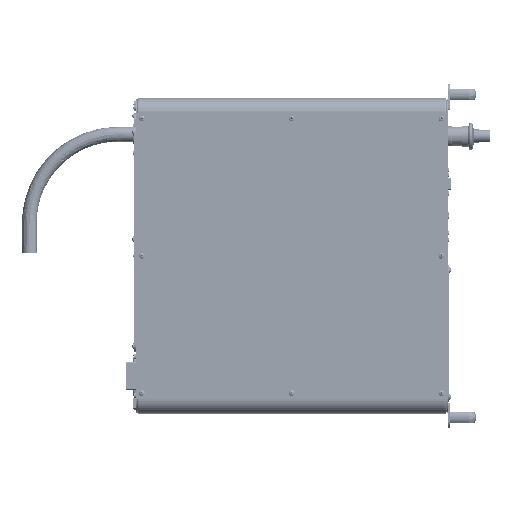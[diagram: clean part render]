
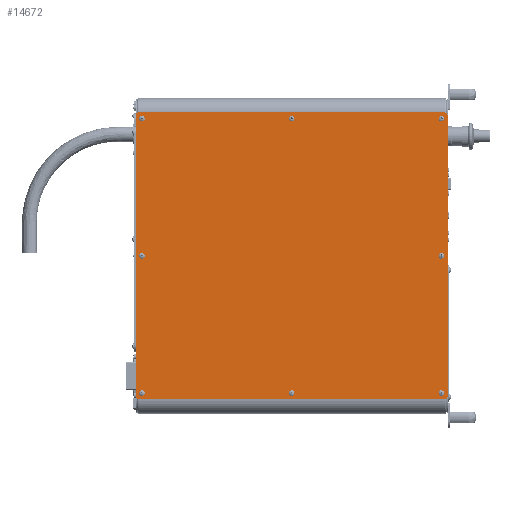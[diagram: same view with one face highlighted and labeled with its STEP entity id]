
A CAD part, top view. The second image highlights one B-rep face of the part: STEP entity #14672.
In plain terms, the highlighted planar face has unit normal (0, 0, 1).
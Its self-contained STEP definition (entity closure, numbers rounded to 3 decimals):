
#6188=FACE_BOUND('',#39897,.T.);
#6189=FACE_BOUND('',#39898,.T.);
#6190=FACE_BOUND('',#39899,.T.);
#6191=FACE_BOUND('',#39900,.T.);
#6192=FACE_BOUND('',#39901,.T.);
#6193=FACE_BOUND('',#39902,.T.);
#6194=FACE_BOUND('',#39903,.T.);
#6195=FACE_BOUND('',#39904,.T.);
#6196=FACE_BOUND('',#39905,.T.);
#8817=CIRCLE('',#170979,4.);
#8818=CIRCLE('',#170980,4.);
#8819=CIRCLE('',#170981,4.);
#8820=CIRCLE('',#170982,4.);
#8821=CIRCLE('',#170983,4.);
#8822=CIRCLE('',#170984,4.);
#8823=CIRCLE('',#170985,4.);
#8824=CIRCLE('',#170986,4.);
#8825=CIRCLE('',#170987,5.);
#8826=CIRCLE('',#170988,5.);
#8827=CIRCLE('',#170989,5.);
#8828=CIRCLE('',#170990,5.);
#14672=ADVANCED_FACE('',(#6188,#6189,#6190,#6191,#6192,#6193,#6194,#6195,
#6196),#23928,.F.);
#23928=PLANE('',#170991);
#39897=EDGE_LOOP('',(#58368));
#39898=EDGE_LOOP('',(#58369));
#39899=EDGE_LOOP('',(#58370));
#39900=EDGE_LOOP('',(#58371));
#39901=EDGE_LOOP('',(#58372));
#39902=EDGE_LOOP('',(#58373));
#39903=EDGE_LOOP('',(#58374));
#39904=EDGE_LOOP('',(#58375));
#39905=EDGE_LOOP('',(#58376,#58377,#58378,#58379,#58380,#58381,#58382,#58383));
#58368=ORIENTED_EDGE('',*,*,#117037,.T.);
#58369=ORIENTED_EDGE('',*,*,#117038,.T.);
#58370=ORIENTED_EDGE('',*,*,#117039,.T.);
#58371=ORIENTED_EDGE('',*,*,#117040,.T.);
#58372=ORIENTED_EDGE('',*,*,#117041,.T.);
#58373=ORIENTED_EDGE('',*,*,#117042,.T.);
#58374=ORIENTED_EDGE('',*,*,#117043,.T.);
#58375=ORIENTED_EDGE('',*,*,#117044,.T.);
#58376=ORIENTED_EDGE('',*,*,#116972,.F.);
#58377=ORIENTED_EDGE('',*,*,#117045,.T.);
#58378=ORIENTED_EDGE('',*,*,#112294,.F.);
#58379=ORIENTED_EDGE('',*,*,#117046,.T.);
#58380=ORIENTED_EDGE('',*,*,#117035,.F.);
#58381=ORIENTED_EDGE('',*,*,#117047,.T.);
#58382=ORIENTED_EDGE('',*,*,#116997,.F.);
#58383=ORIENTED_EDGE('',*,*,#117048,.T.);
#96969=VERTEX_POINT('',#229533);
#96970=VERTEX_POINT('',#229535);
#100223=VERTEX_POINT('',#241858);
#100224=VERTEX_POINT('',#241860);
#100236=VERTEX_POINT('',#241887);
#100247=VERTEX_POINT('',#241908);
#100284=VERTEX_POINT('',#241984);
#100285=VERTEX_POINT('',#241986);
#100286=VERTEX_POINT('',#241990);
#100287=VERTEX_POINT('',#241992);
#100288=VERTEX_POINT('',#241994);
#100289=VERTEX_POINT('',#241996);
#100290=VERTEX_POINT('',#241998);
#100291=VERTEX_POINT('',#242000);
#100292=VERTEX_POINT('',#242002);
#100293=VERTEX_POINT('',#242004);
#112294=EDGE_CURVE('',#96969,#96970,#135961,.T.);
#116972=EDGE_CURVE('',#100223,#100224,#139784,.T.);
#116997=EDGE_CURVE('',#100247,#100236,#139798,.T.);
#117035=EDGE_CURVE('',#100284,#100285,#139822,.T.);
#117037=EDGE_CURVE('',#100286,#100286,#8817,.T.);
#117038=EDGE_CURVE('',#100287,#100287,#8818,.T.);
#117039=EDGE_CURVE('',#100288,#100288,#8819,.T.);
#117040=EDGE_CURVE('',#100289,#100289,#8820,.T.);
#117041=EDGE_CURVE('',#100290,#100290,#8821,.T.);
#117042=EDGE_CURVE('',#100291,#100291,#8822,.T.);
#117043=EDGE_CURVE('',#100292,#100292,#8823,.T.);
#117044=EDGE_CURVE('',#100293,#100293,#8824,.T.);
#117045=EDGE_CURVE('',#100223,#96970,#8825,.T.);
#117046=EDGE_CURVE('',#96969,#100285,#8826,.T.);
#117047=EDGE_CURVE('',#100284,#100236,#8827,.T.);
#117048=EDGE_CURVE('',#100247,#100224,#8828,.T.);
#135961=LINE('',#229534,#152536);
#139784=LINE('',#241859,#156518);
#139798=LINE('',#241909,#156532);
#139822=LINE('',#241985,#156556);
#152536=VECTOR('',#183439,1.);
#156518=VECTOR('',#190653,1.);
#156532=VECTOR('',#190691,1.);
#156556=VECTOR('',#190745,1.);
#170979=AXIS2_PLACEMENT_3D('',#241989,#190749,#190750);
#170980=AXIS2_PLACEMENT_3D('',#241991,#190751,#190752);
#170981=AXIS2_PLACEMENT_3D('',#241993,#190753,#190754);
#170982=AXIS2_PLACEMENT_3D('',#241995,#190755,#190756);
#170983=AXIS2_PLACEMENT_3D('',#241997,#190757,#190758);
#170984=AXIS2_PLACEMENT_3D('',#241999,#190759,#190760);
#170985=AXIS2_PLACEMENT_3D('',#242001,#190761,#190762);
#170986=AXIS2_PLACEMENT_3D('',#242003,#190763,#190764);
#170987=AXIS2_PLACEMENT_3D('',#242005,#190765,#190766);
#170988=AXIS2_PLACEMENT_3D('',#242006,#190767,#190768);
#170989=AXIS2_PLACEMENT_3D('',#242007,#190769,#190770);
#170990=AXIS2_PLACEMENT_3D('',#242008,#190771,#190772);
#170991=AXIS2_PLACEMENT_3D('',#242009,#190773,#190774);
#183439=DIRECTION('',(0.,-1.,0.));
#190653=DIRECTION('',(-1.,0.,0.));
#190691=DIRECTION('',(0.,1.,0.));
#190745=DIRECTION('',(1.,0.,0.));
#190749=DIRECTION('',(0.,0.,-1.));
#190750=DIRECTION('',(-1.,0.,0.));
#190751=DIRECTION('',(0.,0.,-1.));
#190752=DIRECTION('',(-1.,0.,0.));
#190753=DIRECTION('',(0.,0.,-1.));
#190754=DIRECTION('',(-1.,0.,0.));
#190755=DIRECTION('',(0.,0.,-1.));
#190756=DIRECTION('',(-1.,0.,0.));
#190757=DIRECTION('',(0.,0.,-1.));
#190758=DIRECTION('',(-1.,0.,0.));
#190759=DIRECTION('',(0.,0.,-1.));
#190760=DIRECTION('',(-1.,0.,0.));
#190761=DIRECTION('',(0.,0.,-1.));
#190762=DIRECTION('',(-1.,0.,0.));
#190763=DIRECTION('',(0.,0.,-1.));
#190764=DIRECTION('',(-1.,0.,0.));
#190765=DIRECTION('',(0.,0.,1.));
#190766=DIRECTION('',(0.,-1.,0.));
#190767=DIRECTION('',(0.,0.,1.));
#190768=DIRECTION('',(0.,-1.,0.));
#190769=DIRECTION('',(0.,0.,1.));
#190770=DIRECTION('',(0.,-1.,0.));
#190771=DIRECTION('',(0.,0.,1.));
#190772=DIRECTION('',(0.,-1.,0.));
#190773=DIRECTION('',(0.,0.,-1.));
#190774=DIRECTION('',(0.,-1.,0.));
#229533=CARTESIAN_POINT('',(221.,129.5,252.25));
#229534=CARTESIAN_POINT('',(221.,134.5,252.25));
#229535=CARTESIAN_POINT('',(221.,-268.,252.25));
#241858=CARTESIAN_POINT('',(216.,-273.,252.25));
#241859=CARTESIAN_POINT('',(221.,-273.,252.25));
#241860=CARTESIAN_POINT('',(-217.,-273.,252.25));
#241887=CARTESIAN_POINT('',(-222.,129.5,252.25));
#241908=CARTESIAN_POINT('',(-222.,-268.,252.25));
#241909=CARTESIAN_POINT('',(-222.,-273.,252.25));
#241984=CARTESIAN_POINT('',(-217.,134.5,252.25));
#241985=CARTESIAN_POINT('',(-222.,134.5,252.25));
#241986=CARTESIAN_POINT('',(216.,134.5,252.25));
#241989=CARTESIAN_POINT('',(-213.,-69.25,252.25));
#241990=CARTESIAN_POINT('',(-217.,-69.25,252.25));
#241991=CARTESIAN_POINT('',(-213.,125.5,252.25));
#241992=CARTESIAN_POINT('',(-217.,125.5,252.25));
#241993=CARTESIAN_POINT('',(212.,125.5,252.25));
#241994=CARTESIAN_POINT('',(208.,125.5,252.25));
#241995=CARTESIAN_POINT('',(212.,-264.,252.25));
#241996=CARTESIAN_POINT('',(208.,-264.,252.25));
#241997=CARTESIAN_POINT('',(212.,-69.25,252.25));
#241998=CARTESIAN_POINT('',(208.,-69.25,252.25));
#241999=CARTESIAN_POINT('',(-0.5,125.5,252.25));
#242000=CARTESIAN_POINT('',(-4.5,125.5,252.25));
#242001=CARTESIAN_POINT('',(-213.,-264.,252.25));
#242002=CARTESIAN_POINT('',(-217.,-264.,252.25));
#242003=CARTESIAN_POINT('',(-0.5,-264.,252.25));
#242004=CARTESIAN_POINT('',(-4.5,-264.,252.25));
#242005=CARTESIAN_POINT('',(216.,-268.,252.25));
#242006=CARTESIAN_POINT('',(216.,129.5,252.25));
#242007=CARTESIAN_POINT('',(-217.,129.5,252.25));
#242008=CARTESIAN_POINT('',(-217.,-268.,252.25));
#242009=CARTESIAN_POINT('',(221.,-273.,252.25));
